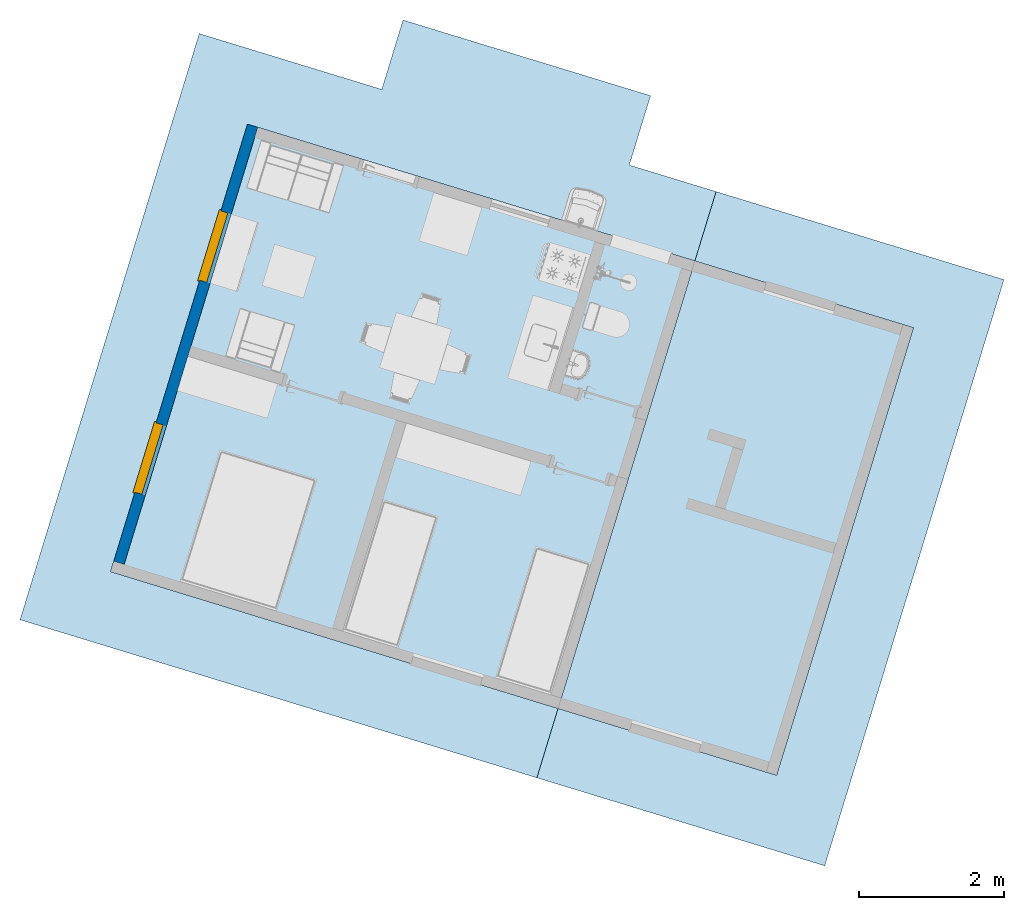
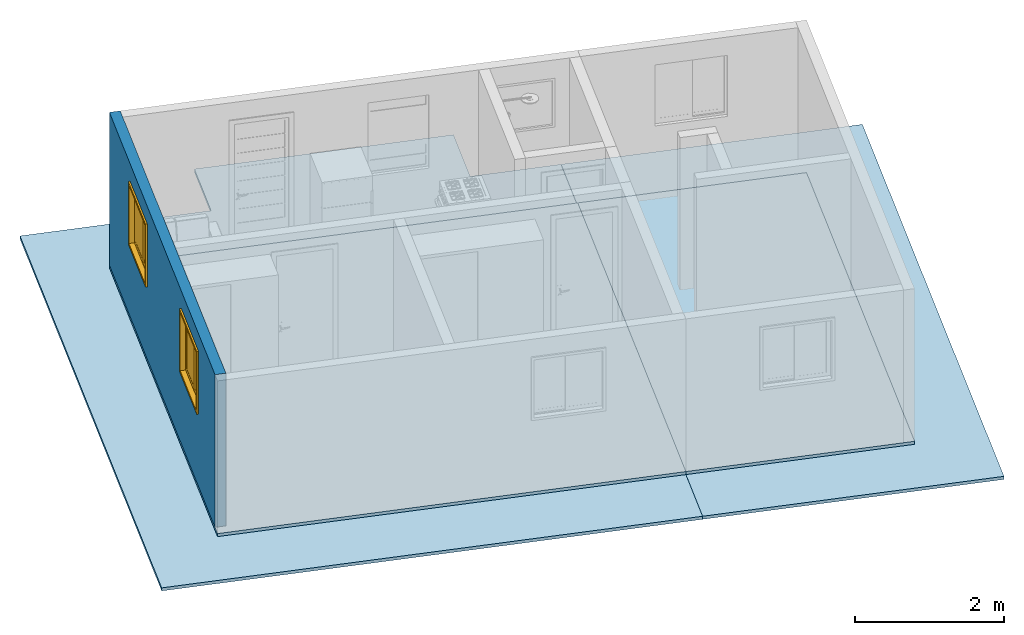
# One storey, part 1 of 13: 4 slabs, 2 windows, 1 wall, 2 openings.
"""IFC2X3 building model written with IfcOpenShell, lengths in millimetres."""

from ifc_helpers import new_model, entity, si_unit, converted_unit, derived_unit, money_unit, direction, frame, origin_with_axes, place, context, subcontext, project, spatial, open_shell, faceted_brep, surface_model, source, transform, mapped, material, type_object, element, fill, save


model = new_model("IFC2X3")

# Units and contexts
model_context = context("Model", 3, precision=0.01, world=origin_with_axes(), true_north=direction((0.0, 1.0)))
body_context = subcontext(model_context, "Body", "Model", "MODEL_VIEW")
ifc_project = project(units=[si_unit("LENGTHUNIT", "METRE", prefix="MILLI"), si_unit("AREAUNIT", "SQUARE_METRE"), si_unit("VOLUMEUNIT", "CUBIC_METRE"), converted_unit("PLANEANGLEUNIT", "DEGREE", entity("IfcPlaneAngleMeasure", 0.0174532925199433), si_unit("PLANEANGLEUNIT", "RADIAN"), dimensions=[0, 0, 0, 0, 0, 0, 0]), money_unit("USD"), converted_unit("TIMEUNIT", "Year", entity("IfcTimeMeasure", 31557600.0), si_unit("TIMEUNIT", "SECOND"), dimensions=[0, 0, 1, 0, 0, 0, 0]), si_unit("MASSUNIT", "GRAM", prefix="KILO"), si_unit("THERMODYNAMICTEMPERATUREUNIT", "DEGREE_CELSIUS"), si_unit("LUMINOUSINTENSITYUNIT", "LUMEN"), si_unit("ENERGYUNIT", "JOULE", prefix="MEGA"), derived_unit("THERMALCONDUCTANCEUNIT", [(si_unit("POWERUNIT", "WATT"), 1), (si_unit("LENGTHUNIT", "METRE"), -1), (si_unit("THERMODYNAMICTEMPERATUREUNIT", "KELVIN"), -1)]), derived_unit("SPECIFICHEATCAPACITYUNIT", [(si_unit("ENERGYUNIT", "JOULE"), 1), (si_unit("MASSUNIT", "GRAM", prefix="KILO"), -1), (si_unit("THERMODYNAMICTEMPERATUREUNIT", "KELVIN"), -1)]), derived_unit("MASSDENSITYUNIT", [(si_unit("MASSUNIT", "GRAM", prefix="KILO"), 1), (si_unit("VOLUMEUNIT", "CUBIC_METRE"), -1)])], contexts=[model_context])

# Site, building, storey
site_placement = place(None, frame((0.0, 0.0, 0.0), z_axis=(0.0, 0.0, 1.0), x_axis=(0.9563047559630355, -0.2923717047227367, 0.0)))
site = spatial("IfcSite", under=ifc_project, at=site_placement, Name="Site", CompositionType="ELEMENT")
building_placement = place(site_placement, origin_with_axes())
building = spatial("IfcBuilding", under=site, at=building_placement, Name="Casa Térrea Isolada", CompositionType="ELEMENT")
storey_placement = place(building_placement, origin_with_axes())
storey = spatial("IfcBuildingStorey", under=building, at=storey_placement, Name="Terreo", CompositionType="ELEMENT", Elevation=0.0)

# Slabs
ifc_material_1 = material(Name="Concreto - Contra Piso")
slab_type_1 = type_object("IfcSlabType", Name="Concreto - Contra Piso 100", PredefinedType="FLOOR")
slab_1_placement = place(storey_placement, frame((0.0, 6.915903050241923e-05, 0.0), z_axis=(0.0, 0.0, 1.0), x_axis=(1.0, 0.0, 0.0)))
element("IfcSlab", 1, at=slab_1_placement, inside=storey, type_object=slab_type_1, material=ifc_material_1, Name="Piso 01", PredefinedType="FLOOR", context=body_context, shape_type="Brep", body=[
    faceted_brep([(0.0, 0.0, 0.0), (0.0, 0.0, -100.0), (6450.002916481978, 0.0, -100.0), (6450.002916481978, 0.0, 0.0), (0.0, 6449.999930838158, 0.0), (0.0, 6449.999930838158, -100.0), (6450.002916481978, 6449.999930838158, -100.0), (6450.002916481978, 6449.999930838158, 0.0)], [[[0, 1, 2, 3]], [[4, 5, 1, 0]], [[2, 1, 5, 6]], [[3, 2, 6, 7]], [[4, 0, 3, 7]], [[7, 6, 5, 4]]]),
])
slab_2_placement = place(storey_placement, frame((6450.002916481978, 6.915903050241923e-05, 0.0), z_axis=(0.0, 0.0, 1.0), x_axis=(1.0, 0.0, 0.0)))
element("IfcSlab", 2, at=slab_2_placement, inside=storey, type_object=slab_type_1, material=ifc_material_1, Name="Piso 03", PredefinedType="FLOOR", context=body_context, shape_type="Brep", body=[
    faceted_brep([(0.0, 0.0, 0.0), (0.0, 0.0, -100.0), (3149.997026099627, 0.0, -100.0), (3149.997026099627, 0.0, 0.0), (0.0, 6449.999930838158, 0.0), (0.0, 6449.999930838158, -100.0), (3149.997026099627, 6449.999930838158, -100.0), (3149.997026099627, 6449.999930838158, 0.0)], [[[0, 1, 2, 3]], [[4, 5, 1, 0]], [[2, 1, 5, 6]], [[3, 2, 6, 7]], [[4, 0, 3, 7]], [[7, 6, 5, 4]]]),
])
slab_type_2 = type_object("IfcSlabType", Name="Concreto - Contra Piso 50", PredefinedType="FLOOR")
slab_3_placement = place(storey_placement, frame((6450.002954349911, 0.00214028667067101, -50.0), z_axis=(0.0, 0.0, 1.0), x_axis=(1.0, 0.0, 0.0)))
element("IfcSlab", 3, at=slab_3_placement, inside=storey, type_object=slab_type_2, material=ifc_material_1, Name="Piso 04", PredefinedType="FLOOR", context=body_context, shape_type="Brep", body=[
    faceted_brep([(0.0, 0.0, 0.0), (0.0, 0.0, -50.0), (0.0, -999.9999040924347, -50.0), (0.0, -999.9999040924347, 0.0), (3149.993462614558, 0.0, 0.0), (3149.993462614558, 0.0, -50.0), (3149.996988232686, 6450.000004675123, -50.0), (-0.00295713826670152, 6450.00146341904, -50.0), (-0.00295713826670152, 7450.000160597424, -50.0), (4149.994122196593, 7450.000160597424, -50.0), (4149.994122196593, -999.9999040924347, -50.0), (4149.994122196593, -999.9999040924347, 0.0), (4149.994122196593, 7450.000160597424, 0.0), (-0.00295713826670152, 7450.000160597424, 0.0), (-0.00295713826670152, 6450.00146341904, 0.0), (3149.996988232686, 6450.000004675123, 0.0)], [[[0, 1, 2, 3]], [[4, 5, 1, 0]], [[2, 1, 5, 6, 7, 8, 9, 10]], [[3, 2, 10, 11]], [[4, 0, 3, 11, 12, 13, 14, 15]], [[15, 6, 5, 4]], [[14, 7, 6, 15]], [[13, 8, 7, 14]], [[12, 9, 8, 13]], [[11, 10, 9, 12]]]),
])
slab_4_placement = place(storey_placement, frame((-999.997152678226, -1000.000000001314, -50.0), z_axis=(0.0, 0.0, 1.0), x_axis=(1.0, 0.0, 0.0)))
element("IfcSlab", 4, at=slab_4_placement, inside=storey, type_object=slab_type_2, material=ifc_material_1, Name="Piso 02", PredefinedType="FLOOR", context=body_context, shape_type="Brep", body=[
    faceted_brep([(0.0, 0.0, 0.0), (0.0, 0.0, -50.0), (7450.000107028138, 0.0, -50.0), (7450.000107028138, 0.0, 0.0), (0.0, 8450.000064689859, 0.0), (0.0, 8450.000064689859, -50.0), (2631.395263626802, 8450.000064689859, -50.0), (2631.395263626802, 9450.000022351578, -50.0), (6200.000019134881, 9450.000022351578, -50.0), (6200.000019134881, 8450.000064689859, -50.0), (7449.997149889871, 8450.000064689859, -50.0), (7449.997149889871, 7450.003064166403, -50.0), (999.9971413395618, 7449.99996621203, -50.0), (1000.000661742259, 999.99995766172, -50.0), (7450.000107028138, 999.99995766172, -50.0), (7450.000107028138, 999.99995766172, 0.0), (1000.000661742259, 999.99995766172, 0.0), (999.9971413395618, 7449.99996621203, 0.0), (7449.997149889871, 7450.003064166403, 0.0), (7449.997149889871, 8450.000064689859, 0.0), (6200.000019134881, 8450.000064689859, 0.0), (6200.000019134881, 9450.000022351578, 0.0), (2631.395263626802, 9450.000022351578, 0.0), (2631.395263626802, 8450.000064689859, 0.0)], [[[0, 1, 2, 3]], [[4, 5, 1, 0]], [[2, 1, 5, 6, 7, 8, 9, 10, 11, 12, 13, 14]], [[3, 2, 14, 15]], [[4, 0, 3, 15, 16, 17, 18, 19, 20, 21, 22, 23]], [[23, 6, 5, 4]], [[22, 7, 6, 23]], [[21, 8, 7, 22]], [[20, 9, 8, 21]], [[19, 10, 9, 20]], [[18, 11, 10, 19]], [[17, 12, 11, 18]], [[16, 13, 12, 17]], [[15, 14, 13, 16]]]),
])

# Wall, openings, windows
ifc_material_2 = material(Name="Bloco de Concreto - Estrutural")
wall_type = type_object("IfcWallType", Name="Bloco de Concreto - Estrutural 150", PredefinedType="NOTDEFINED")
wall_placement = place(storey_placement, frame((75.0029393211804, 74.99712983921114, 0.0), z_axis=(0.0, 0.0, 1.0), x_axis=(-4.610697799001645e-07, 0.9999999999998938, 0.0)))
wall = element("IfcWall", 5, at=wall_placement, inside=storey, type_object=wall_type, material=ifc_material_2, Name="Parede 05", context=body_context, shape_type="Brep", body=[
    faceted_brep([(6375.002904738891, 75.00000000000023, 2500.0), (6375.002904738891, 75.00000000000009, 0.0), (74.9999999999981, 75.00000000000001, 0.0), (74.9999999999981, 75.00000000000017, 2500.0), (2070.002835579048, 75.00000000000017, 2200.0), (1070.002835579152, 75.00000000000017, 2200.0), (1070.002835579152, 75.00000000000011, 1200.0), (2070.002835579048, 75.00000000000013, 1200.0), (4125.002835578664, 75.00000000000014, 1200.0), (5125.002835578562, 75.00000000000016, 1200.0), (5125.002835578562, 75.0000000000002, 2200.0), (4125.002835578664, 75.00000000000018, 2200.0), (6375.002904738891, -74.99999999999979, 2500.0), (6375.002904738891, -74.99999999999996, 0.0), (74.99999999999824, -75.00000000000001, 0.0), (74.99999999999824, -74.99999999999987, 2500.0), (2070.002835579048, -24.99999999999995, 2200.0), (1070.002835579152, -24.99999999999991, 2200.0), (1070.002835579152, -24.99999999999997, 1200.0), (2070.002835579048, -25.00000000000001, 1200.0), (4125.002835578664, -25.00000000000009, 1200.0), (5125.002835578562, -25.00000000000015, 1200.0), (5125.002835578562, -25.00000000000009, 2200.0), (4125.002835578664, -25.00000000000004, 2200.0), (2070.002835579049, -74.9999999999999, 1200.0), (1070.002835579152, -74.99999999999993, 1200.0), (1070.002835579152, -74.99999999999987, 2200.0), (2070.002835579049, -74.99999999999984, 2200.0), (4125.002835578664, -74.99999999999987, 2200.0), (5125.00283557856, -74.99999999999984, 2200.0), (5125.00283557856, -74.9999999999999, 1200.0), (4125.002835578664, -74.99999999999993, 1200.0)], [[[0, 1, 2, 3], [4, 5, 6, 7], [8, 9, 10, 11]], [[0, 12, 13, 1]], [[1, 13, 14, 2]], [[14, 15, 3, 2]], [[12, 0, 3, 15]], [[5, 4, 16, 17]], [[6, 5, 17, 18]], [[7, 6, 18, 19]], [[4, 7, 19, 16]], [[20, 21, 9, 8]], [[21, 22, 10, 9]], [[22, 23, 11, 10]], [[23, 20, 8, 11]], [[13, 12, 15, 14], [24, 25, 26, 27], [28, 29, 30, 31]], [[27, 26, 17, 16]], [[26, 25, 18, 17]], [[25, 24, 19, 18]], [[24, 27, 16, 19]], [[21, 20, 31, 30]], [[22, 21, 30, 29]], [[23, 22, 29, 28]], [[20, 23, 28, 31]]]),
])
opening_1_placement = place(wall_placement, frame((1570.0028355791, 0.0, 1200.0), z_axis=(0.0, 0.0, 1.0), x_axis=(1.0, 0.0, 0.0)))
opening_1 = element("IfcOpeningElement", 6, at=opening_1_placement, cuts=wall, Name="J04", context=body_context, shape_type="Brep", body=[
    faceted_brep([(514.9999999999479, 76.00290474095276, -15.00000000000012), (-514.9999999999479, 76.00290474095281, -15.00000000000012), (-514.9999999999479, 76.002904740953, 1015.0), (514.9999999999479, 76.00290474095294, 1015.0), (514.9999999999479, 74.99999999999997, -15.00000000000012), (-514.9999999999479, 75.00000000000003, -15.00000000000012), (-514.9999999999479, 75.0000000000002, 1015.0), (514.9999999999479, 75.00000000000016, 1015.0), (-499.999999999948, 75.0000000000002, 1000.0), (499.9999999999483, 75.00000000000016, 1000.0), (499.9999999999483, 74.99999999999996, 0.0), (-499.999999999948, 75.00000000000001, 0.0), (-499.999999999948, -24.99999999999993, 1000.0), (-499.9999999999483, -76.00290474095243, 1000.0), (499.9999999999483, -76.00290474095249, 1000.0), (499.9999999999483, -24.99999999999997, 1000.0), (499.9999999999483, -25.00000000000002, 0.0), (499.9999999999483, -76.00290474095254, 0.0), (-499.9999999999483, -76.00290474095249, 0.0), (-499.999999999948, -24.99999999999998, 0.0)], [[[0, 1, 2, 3]], [[4, 5, 1, 0]], [[5, 6, 2, 1]], [[6, 7, 3, 2]], [[7, 4, 0, 3]], [[6, 5, 4, 7], [8, 9, 10, 11]], [[9, 8, 12, 13, 14, 15]], [[10, 9, 15, 16]], [[11, 10, 16, 17, 18, 19]], [[8, 11, 19, 12]], [[12, 19, 18, 13]], [[13, 18, 17, 14]], [[16, 15, 14, 17]]]),
])
opening_2_placement = place(wall_placement, frame((4625.002835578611, 0.0, 1200.0), z_axis=(0.0, 0.0, 1.0), x_axis=(1.0, 0.0, 0.0)))
opening_2 = element("IfcOpeningElement", 7, at=opening_2_placement, cuts=wall, Name="J01", context=body_context, shape_type="Brep", body=[
    faceted_brep([(514.9999999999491, 76.00290474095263, -15.00000000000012), (-514.9999999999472, 76.00290474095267, -15.00000000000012), (-514.9999999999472, 76.00290474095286, 1015.0), (514.9999999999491, 76.00290474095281, 1015.0), (514.9999999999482, 74.99999999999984, -15.00000000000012), (-514.9999999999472, 74.9999999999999, -15.00000000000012), (-514.9999999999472, 75.00000000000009, 1015.0), (514.9999999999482, 75.00000000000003, 1015.0), (-499.9999999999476, 75.00000000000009, 1000.0), (499.9999999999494, 75.00000000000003, 1000.0), (499.9999999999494, 74.99999999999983, 0.0), (-499.9999999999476, 74.99999999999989, 0.0), (-499.9999999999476, -25.00000000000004, 1000.0), (-499.9999999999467, -76.00290474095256, 1000.0), (499.9999999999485, -76.00290474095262, 1000.0), (499.9999999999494, -25.00000000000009, 1000.0), (499.9999999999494, -25.00000000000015, 0.0), (499.9999999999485, -76.00290474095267, 0.0), (-499.9999999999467, -76.00290474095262, 0.0), (-499.9999999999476, -25.00000000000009, 0.0)], [[[0, 1, 2, 3]], [[4, 5, 1, 0]], [[5, 6, 2, 1]], [[6, 7, 3, 2]], [[7, 4, 0, 3]], [[6, 5, 4, 7], [8, 9, 10, 11]], [[9, 8, 12, 13, 14, 15]], [[10, 9, 15, 16]], [[11, 10, 16, 17, 18, 19]], [[8, 11, 19, 12]], [[12, 19, 18, 13]], [[13, 18, 17, 14]], [[16, 15, 14, 17]]]),
])
window_style = type_object("IfcWindowStyle", Name="Janela 26", ConstructionType="NOTDEFINED", OperationType="DOUBLE_PANEL_VERTICAL", ParameterTakesPrecedence=False, Sizeable=False)
shared_shape = source(origin_with_axes(), body_context, "Body", "SurfaceModel", [
    faceted_brep([(499.999999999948, 0.0, 0.0), (-499.999999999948, 0.0, 0.0), (-499.999999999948, 49.99999999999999, 0.0), (499.999999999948, 49.99999999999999, 0.0), (499.999999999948, 0.0, 1000.0), (-499.999999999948, 0.0, 1000.0), (474.999999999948, 0.0, 24.99999999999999), (-474.999999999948, 0.0, 24.99999999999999), (-474.999999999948, 0.0, 975.0), (474.999999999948, 0.0, 975.0), (-499.999999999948, 50.00000000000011, 1000.0), (499.999999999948, 50.00000000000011, 1000.0), (474.999999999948, 49.99999999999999, 24.99999999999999), (474.999999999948, 50.00000000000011, 975.0), (-474.999999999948, 50.00000000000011, 975.0), (-474.999999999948, 49.99999999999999, 24.99999999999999)], [[[0, 1, 2, 3]], [[0, 4, 5, 1], [6, 7, 8, 9]], [[1, 5, 10, 2]], [[3, 2, 10, 11], [12, 13, 14, 15]], [[4, 0, 3, 11]], [[5, 4, 11, 10]], [[7, 6, 12, 15]], [[8, 7, 15, 14]], [[9, 8, 14, 13]], [[6, 9, 13, 12]]]),
    faceted_brep([(514.999999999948, 74.99999999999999, -15.00000000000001), (514.999999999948, 49.99999999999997, -15.00000000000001), (474.999999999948, 49.99999999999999, 24.99999999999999), (474.999999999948, 74.99999999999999, 24.99999999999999), (514.999999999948, 75.00000000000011, 1015.0), (514.999999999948, 50.00000000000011, 1015.0), (474.999999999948, 50.0000000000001, 975.0), (474.999999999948, 75.00000000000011, 975.0)], [[[0, 1, 2, 3]], [[4, 5, 1, 0]], [[1, 5, 6, 2]], [[3, 2, 6, 7]], [[0, 3, 7, 4]], [[7, 6, 5, 4]]]),
    faceted_brep([(-514.999999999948, 75.00000000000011, 1015.0), (-514.999999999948, 50.00000000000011, 1015.0), (-474.999999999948, 50.0000000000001, 975.0), (-474.999999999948, 75.00000000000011, 975.0), (-514.999999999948, 74.99999999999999, -15.00000000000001), (-514.999999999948, 49.99999999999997, -15.00000000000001), (-474.999999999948, 49.99999999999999, 24.99999999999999), (-474.999999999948, 74.99999999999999, 24.99999999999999)], [[[0, 1, 2, 3]], [[4, 5, 1, 0]], [[1, 5, 6, 2]], [[3, 2, 6, 7]], [[0, 3, 7, 4]], [[7, 6, 5, 4]]]),
    faceted_brep([(-514.999999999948, 74.99999999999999, -15.00000000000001), (-514.999999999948, 49.99999999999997, -15.00000000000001), (-474.999999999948, 49.99999999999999, 24.99999999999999), (-474.999999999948, 74.99999999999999, 24.99999999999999), (514.999999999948, 74.99999999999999, -15.00000000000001), (514.999999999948, 49.99999999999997, -15.00000000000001), (474.999999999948, 49.99999999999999, 24.99999999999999), (474.999999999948, 74.99999999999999, 24.99999999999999)], [[[0, 1, 2, 3]], [[4, 5, 1, 0]], [[1, 5, 6, 2]], [[3, 2, 6, 7]], [[0, 3, 7, 4]], [[7, 6, 5, 4]]]),
    faceted_brep([(514.999999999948, 75.00000000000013, 1015.0), (514.999999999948, 50.00000000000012, 1015.0), (474.999999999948, 50.00000000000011, 975.0), (474.999999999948, 75.00000000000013, 975.0), (-514.999999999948, 75.00000000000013, 1015.0), (-514.999999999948, 50.00000000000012, 1015.0), (-474.999999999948, 50.00000000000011, 975.0), (-474.999999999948, 75.00000000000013, 975.0)], [[[0, 1, 2, 3]], [[4, 5, 1, 0]], [[1, 5, 6, 2]], [[3, 2, 6, 7]], [[0, 3, 7, 4]], [[7, 6, 5, 4]]]),
    faceted_brep([(464.999999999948, -50.00000000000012, 965.0), (499.999999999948, -50.00000000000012, 965.0), (499.999999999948, 0.0, 965.0), (464.999999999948, 0.0, 965.0), (464.999999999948, -50.00000000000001, 35.0), (499.999999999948, -50.00000000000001, 35.0), (499.999999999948, 0.0, 35.00000000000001), (464.999999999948, 0.0, 35.00000000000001)], [[[0, 1, 2, 3]], [[0, 4, 5, 1]], [[1, 5, 6, 2]], [[3, 2, 6, 7]], [[4, 0, 3, 7]], [[5, 4, 7, 6]]]),
    faceted_brep([(-464.999999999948, -50.00000000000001, 35.0), (-499.999999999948, -50.00000000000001, 35.0), (-499.999999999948, 0.0, 35.00000000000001), (-464.999999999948, 0.0, 35.00000000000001), (-464.999999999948, -50.00000000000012, 965.0), (-499.999999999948, -50.00000000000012, 965.0), (-499.999999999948, 0.0, 965.0), (-464.999999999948, 0.0, 965.0)], [[[0, 1, 2, 3]], [[0, 4, 5, 1]], [[1, 5, 6, 2]], [[3, 2, 6, 7]], [[4, 0, 3, 7]], [[5, 4, 7, 6]]]),
    faceted_brep([(464.999999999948, -50.00000000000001, 35.0), (499.999999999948, -50.00000000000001, 35.0), (499.999999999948, 0.0, 35.00000000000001), (464.999999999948, 0.0, 35.00000000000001), (-464.999999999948, -50.00000000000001, 35.0), (-499.999999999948, -50.00000000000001, 35.0), (-499.999999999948, -50.0, 0.0), (499.999999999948, -50.0, 0.0), (499.999999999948, 0.0, 0.0), (-499.999999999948, 0.0, 0.0), (-499.999999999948, 0.0, 35.00000000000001), (-464.999999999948, 0.0, 35.00000000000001)], [[[0, 1, 2, 3]], [[0, 4, 5, 6, 7, 1]], [[1, 7, 8, 2]], [[3, 2, 8, 9, 10, 11]], [[4, 0, 3, 11]], [[5, 4, 11, 10]], [[6, 5, 10, 9]], [[7, 6, 9, 8]]]),
    faceted_brep([(-464.999999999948, -50.00000000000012, 965.0), (-499.999999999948, -50.00000000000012, 965.0), (-499.999999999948, 0.0, 965.0), (-464.999999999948, 0.0, 965.0), (464.999999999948, -50.00000000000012, 965.0), (499.999999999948, -50.00000000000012, 965.0), (499.999999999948, -50.00000000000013, 1000.0), (-499.999999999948, -50.00000000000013, 1000.0), (-499.999999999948, 0.0, 1000.0), (499.999999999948, 0.0, 1000.0), (499.999999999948, 0.0, 965.0), (464.999999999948, 0.0, 965.0)], [[[0, 1, 2, 3]], [[0, 4, 5, 6, 7, 1]], [[1, 7, 8, 2]], [[3, 2, 8, 9, 10, 11]], [[4, 0, 3, 11]], [[5, 4, 11, 10]], [[6, 5, 10, 9]], [[7, 6, 9, 8]]]),
    faceted_brep([(-24.99999999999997, -50.0000000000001, 914.9999999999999), (25.00000000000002, -50.00000000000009, 914.9999999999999), (25.00000000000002, -25.0000000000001, 914.9999999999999), (-24.99999999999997, -25.0000000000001, 914.9999999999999), (-24.99999999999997, -49.99999999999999, 85.0), (25.00000000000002, -49.99999999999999, 85.0), (25.00000000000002, -24.99999999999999, 85.0), (-24.99999999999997, -25.0, 85.0)], [[[0, 1, 2, 3]], [[0, 4, 5, 1]], [[1, 5, 6, 2]], [[3, 2, 6, 7]], [[4, 0, 3, 7]], [[5, 4, 7, 6]]]),
    faceted_brep([(-414.999999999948, -50.00000000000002, 85.0), (-464.999999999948, -50.00000000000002, 85.0), (-464.999999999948, -25.00000000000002, 85.0), (-414.999999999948, -25.00000000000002, 85.0), (-414.999999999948, -50.00000000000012, 914.9999999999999), (-464.999999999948, -50.00000000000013, 914.9999999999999), (-464.999999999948, -25.00000000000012, 914.9999999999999), (-414.999999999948, -25.00000000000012, 914.9999999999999)], [[[0, 1, 2, 3]], [[0, 4, 5, 1]], [[1, 5, 6, 2]], [[3, 2, 6, 7]], [[4, 0, 3, 7]], [[5, 4, 7, 6]]]),
    faceted_brep([(-464.999999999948, -50.00000000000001, 35.0), (-464.999999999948, -50.00000000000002, 85.0), (-464.999999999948, -25.00000000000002, 85.0), (-464.999999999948, -25.00000000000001, 35.0), (25.00000000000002, -49.99999999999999, 35.0), (25.00000000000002, -49.99999999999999, 85.0), (-24.99999999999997, -49.99999999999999, 85.0), (-414.999999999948, -50.00000000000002, 85.0), (-414.999999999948, -25.00000000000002, 85.0), (-24.99999999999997, -25.0, 85.0), (25.00000000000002, -24.99999999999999, 85.0), (25.00000000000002, -24.99999999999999, 35.0)], [[[0, 1, 2, 3]], [[0, 4, 5, 6, 7, 1]], [[1, 7, 8, 2]], [[3, 2, 8, 9, 10, 11]], [[4, 0, 3, 11]], [[5, 4, 11, 10]], [[6, 5, 10, 9]], [[7, 6, 9, 8]]]),
    faceted_brep([(25.00000000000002, -50.0000000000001, 965.0), (25.00000000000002, -50.00000000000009, 914.9999999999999), (25.00000000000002, -25.0000000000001, 914.9999999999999), (25.00000000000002, -25.0000000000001, 965.0), (-464.999999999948, -50.00000000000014, 965.0), (-464.999999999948, -50.00000000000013, 914.9999999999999), (-414.999999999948, -50.00000000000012, 914.9999999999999), (-24.99999999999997, -50.0000000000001, 914.9999999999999), (-24.99999999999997, -25.0000000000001, 914.9999999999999), (-414.999999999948, -25.00000000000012, 914.9999999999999), (-464.999999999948, -25.00000000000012, 914.9999999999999), (-464.999999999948, -25.00000000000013, 965.0)], [[[0, 1, 2, 3]], [[0, 4, 5, 6, 7, 1]], [[1, 7, 8, 2]], [[3, 2, 8, 9, 10, 11]], [[4, 0, 3, 11]], [[5, 4, 11, 10]], [[6, 5, 10, 9]], [[7, 6, 9, 8]]]),
    surface_model("IfcShellBasedSurfaceModel", [(-24.99999999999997, -47.50000000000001, 85.0), (-24.99999999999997, -47.50000000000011, 914.9999999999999), (-414.999999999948, -47.50000000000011, 914.9999999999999), (-414.999999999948, -47.50000000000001, 85.0)], [open_shell([[[0, 1, 2, 3]]])]),
    surface_model("IfcShellBasedSurfaceModel", [(-24.99999999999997, -27.50000000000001, 85.0), (-414.999999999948, -27.50000000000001, 85.0), (-414.999999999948, -27.50000000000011, 914.9999999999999), (-24.99999999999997, -27.50000000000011, 914.9999999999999)], [open_shell([[[0, 1, 2, 3]]])]),
    faceted_brep([(414.999999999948, -25.00000000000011, 914.9999999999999), (464.999999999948, -25.0000000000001, 914.9999999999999), (464.999999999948, 0.0, 914.9999999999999), (414.999999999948, 0.0, 914.9999999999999), (414.999999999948, -25.0, 85.0), (464.999999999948, -25.0, 85.0), (464.999999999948, 0.0, 85.0), (414.999999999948, 0.0, 85.0)], [[[0, 1, 2, 3]], [[0, 4, 5, 1]], [[1, 5, 6, 2]], [[3, 2, 6, 7]], [[4, 0, 3, 7]], [[5, 4, 7, 6]]]),
    faceted_brep([(24.99999999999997, -25.00000000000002, 85.0), (-25.00000000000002, -25.00000000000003, 85.0), (-25.00000000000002, 0.0, 85.0), (24.99999999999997, 0.0, 85.0), (24.99999999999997, -25.00000000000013, 914.9999999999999), (-25.00000000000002, -25.00000000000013, 914.9999999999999), (-25.00000000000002, 0.0, 914.9999999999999), (24.99999999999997, 0.0, 914.9999999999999)], [[[0, 1, 2, 3]], [[0, 4, 5, 1]], [[1, 5, 6, 2]], [[3, 2, 6, 7]], [[4, 0, 3, 7]], [[5, 4, 7, 6]]]),
    faceted_brep([(-25.00000000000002, -25.00000000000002, 35.0), (-25.00000000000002, -25.00000000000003, 85.0), (-25.00000000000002, 0.0, 85.0), (-25.00000000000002, 0.0, 35.0), (464.999999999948, -24.99999999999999, 35.0), (464.999999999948, -25.0, 85.0), (414.999999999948, -25.0, 85.0), (24.99999999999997, -25.00000000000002, 85.0), (24.99999999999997, 0.0, 85.0), (414.999999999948, 0.0, 85.0), (464.999999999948, 0.0, 85.0), (464.999999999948, 0.0, 35.0)], [[[0, 1, 2, 3]], [[0, 4, 5, 6, 7, 1]], [[1, 7, 8, 2]], [[3, 2, 8, 9, 10, 11]], [[4, 0, 3, 11]], [[5, 4, 11, 10]], [[6, 5, 10, 9]], [[7, 6, 9, 8]]]),
    faceted_brep([(464.999999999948, -25.00000000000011, 965.0), (464.999999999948, -25.0000000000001, 914.9999999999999), (464.999999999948, 0.0, 914.9999999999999), (464.999999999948, 0.0, 965.0), (-25.00000000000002, -25.00000000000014, 965.0), (-25.00000000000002, -25.00000000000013, 914.9999999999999), (24.99999999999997, -25.00000000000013, 914.9999999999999), (414.999999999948, -25.00000000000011, 914.9999999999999), (414.999999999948, 0.0, 914.9999999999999), (24.99999999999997, 0.0, 914.9999999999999), (-25.00000000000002, 0.0, 914.9999999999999), (-25.00000000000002, 0.0, 965.0)], [[[0, 1, 2, 3]], [[0, 4, 5, 6, 7, 1]], [[1, 7, 8, 2]], [[3, 2, 8, 9, 10, 11]], [[4, 0, 3, 11]], [[5, 4, 11, 10]], [[6, 5, 10, 9]], [[7, 6, 9, 8]]]),
    surface_model("IfcShellBasedSurfaceModel", [(414.999999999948, -22.50000000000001, 85.0), (414.999999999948, -22.50000000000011, 914.9999999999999), (24.99999999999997, -22.50000000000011, 914.9999999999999), (24.99999999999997, -22.50000000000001, 85.0)], [open_shell([[[0, 1, 2, 3]]])]),
    surface_model("IfcShellBasedSurfaceModel", [(414.999999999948, -2.500000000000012, 85.0), (24.99999999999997, -2.500000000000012, 85.0), (24.99999999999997, -2.500000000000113, 914.9999999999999), (414.999999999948, -2.500000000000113, 914.9999999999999)], [open_shell([[[0, 1, 2, 3]]])]),
])
window_1_placement = place(opening_1_placement, frame((-499.9999999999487, 0.0, 0.0), z_axis=(0.0, 0.0, 1.0), x_axis=(1.0, 0.0, 0.0)))
window_1 = element("IfcWindow", 8, at=window_1_placement, inside=storey, type_object=window_style, Name="J04", OverallHeight=1000.0, OverallWidth=1000.0, context=body_context, shape_type="MappedRepresentation", body=[
    mapped(shared_shape, transform((499.9999999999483, 25.00000000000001, 0.0))),
])
fill(opening_1, window_1)
window_2_placement = place(opening_2_placement, frame((-499.9999999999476, 0.0, 0.0), z_axis=(0.0, 0.0, 1.0), x_axis=(1.0, 0.0, 0.0)))
window_2 = element("IfcWindow", 9, at=window_2_placement, inside=storey, type_object=window_style, Name="J01", OverallHeight=1000.0, OverallWidth=1000.0, context=body_context, shape_type="MappedRepresentation", body=[
    mapped(shared_shape, transform((499.9999999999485, 24.99999999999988, 0.0))),
])
fill(opening_2, window_2)

save(model, "model.ifc")
